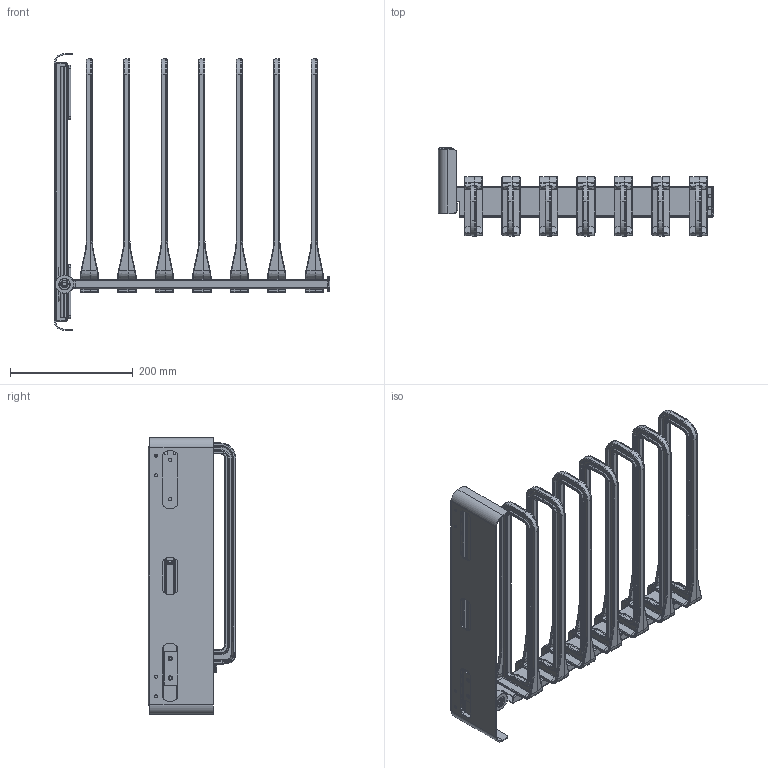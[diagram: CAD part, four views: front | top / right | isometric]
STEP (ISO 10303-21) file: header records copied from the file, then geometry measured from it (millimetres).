
FILE_DESCRIPTION((''),'2;1');
FILE_NAME('238383_SW0001','2024-06-24T09:58:03',('1za37'),('Kesseboehmer'),'CREO PARAMETRIC BY PTC INC, 2020414','CREO PARAMETRIC BY PTC INC, 2020414','');
FILE_SCHEMA(('AUTOMOTIVE_DESIGN { 1 0 10303 214 1 1 1 1 }'));
Products named in the file (1): 238383_SW0001
Bounding box: 447.9 x 142.9 x 450 mm (x, y, z)
Volume: 1220927.6 mm3; surface area: 738070.6 mm2
Topology: 11 solids, 11 shells, 8443 faces, 21971 edges, 13986 vertices
Faces by surface type: plane 3696, extrusion 2268, cylinder 1123, bspline 767, torus 284, cone 278, sphere 27
Entity records: 302682 total; most frequent: CARTESIAN_POINT 109304, ORIENTED_EDGE 43930, DIRECTION 31016, EDGE_CURVE 21965, VECTOR 15236, VERTEX_POINT 13986, LINE 12968, EDGE_LOOP 8969
